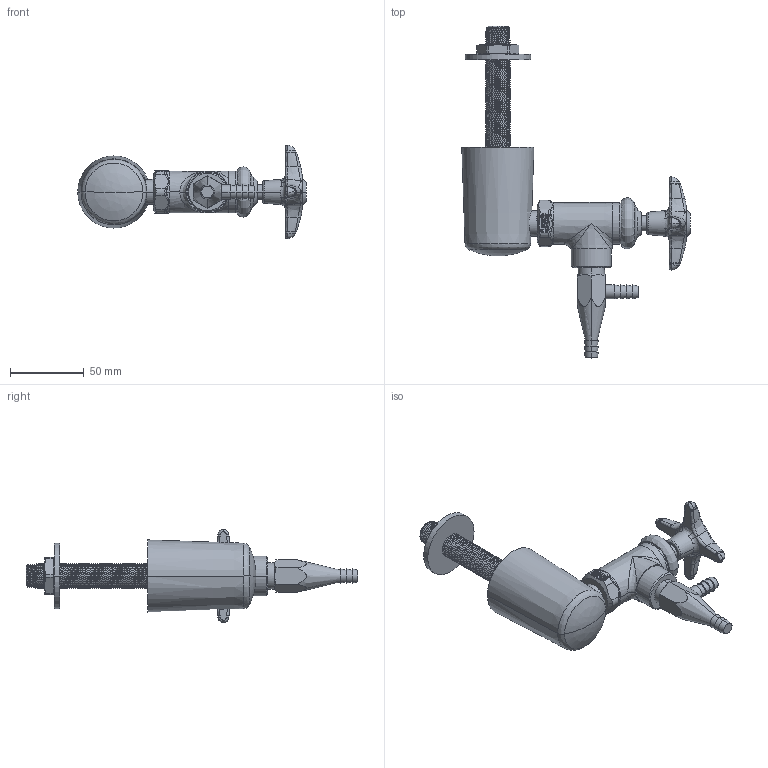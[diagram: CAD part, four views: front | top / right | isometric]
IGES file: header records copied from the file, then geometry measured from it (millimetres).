
Start section:  PTC IGES file: LWV2-B33-10.igs
Global section: file name: LWV2-B33-10.igs; native system: Creo Parametric by PTC Inc.; preprocessor: 2014500; author: usch_engrender; organization: Unknown; date: 20151113.085912; units: inch
Bounding box: 155.19 x 225.55 x 63.41 mm (x, y, z)
Volume: 222997.5 mm3; surface area: 43762.7 mm2
Topology: 1 solids, 5 shells, 608 faces, 1468 edges, 890 vertices
Faces by surface type: bspline 316, revolution 292
